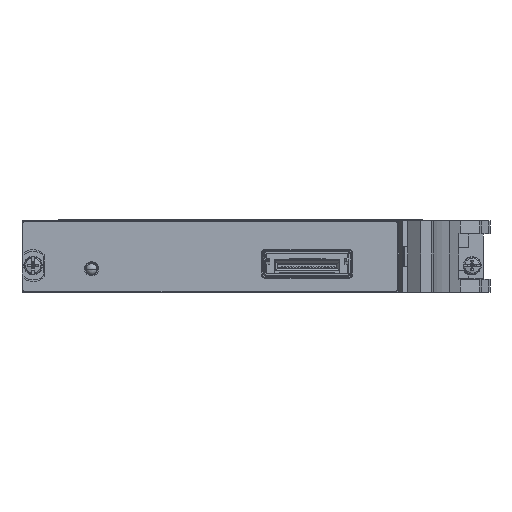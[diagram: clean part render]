
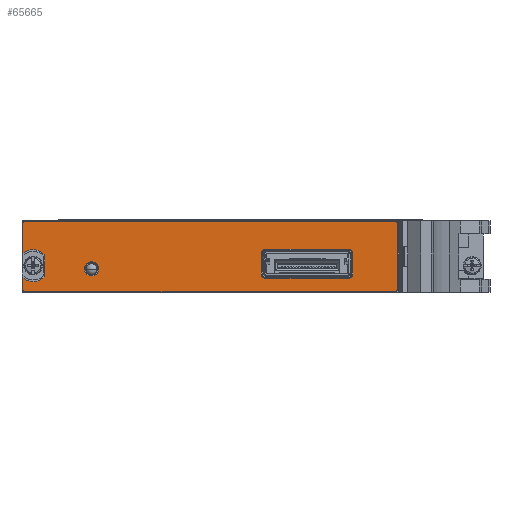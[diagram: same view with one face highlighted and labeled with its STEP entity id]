
A CAD part, left-side view. The second image highlights one B-rep face of the part: STEP entity #65665.
In plain terms, the highlighted planar face has unit normal (-1, 0, 0).
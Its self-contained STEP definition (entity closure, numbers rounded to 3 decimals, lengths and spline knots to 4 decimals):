
#60383=CARTESIAN_POINT('',(-0.215,0.5344,0.6648));
#60384=DIRECTION('',(-1.,0.,0.));
#60385=DIRECTION('',(0.,0.,1.));
#60386=AXIS2_PLACEMENT_3D('',#60383,#60384,#60385);
#60388=DIRECTION('',(0.,1.,0.));
#60389=VECTOR('',#60388,4.07);
#60390=CARTESIAN_POINT('',(-0.215,-3.5356,0.6848));
#60391=LINE('',#60390,#60389);
#60392=CARTESIAN_POINT('',(-0.215,-3.5356,0.6648));
#60393=DIRECTION('',(-1.,0.,0.));
#60394=DIRECTION('',(0.,-1.,0.));
#60395=AXIS2_PLACEMENT_3D('',#60392,#60393,#60394);
#60397=DIRECTION('',(0.,0.,1.));
#60398=VECTOR('',#60397,0.728);
#60399=CARTESIAN_POINT('',(-0.215,-3.5556,-0.0633));
#60400=LINE('',#60399,#60398);
#60401=CARTESIAN_POINT('',(-0.215,-3.5356,-0.0633));
#60402=DIRECTION('',(-1.,0.,0.));
#60403=DIRECTION('',(0.,0.,-1.));
#60404=AXIS2_PLACEMENT_3D('',#60401,#60402,#60403);
#60406=DIRECTION('',(0.,-1.,0.));
#60407=VECTOR('',#60406,4.07);
#60408=CARTESIAN_POINT('',(-0.215,0.5344,-0.0833));
#60409=LINE('',#60408,#60407);
#60410=CARTESIAN_POINT('',(-0.215,0.5344,-0.0633));
#60411=DIRECTION('',(-1.,0.,0.));
#60412=DIRECTION('',(0.,1.,0.));
#60413=AXIS2_PLACEMENT_3D('',#60410,#60411,#60412);
#60415=DIRECTION('',(0.,0.,-1.));
#60416=VECTOR('',#60415,0.1295);
#60417=CARTESIAN_POINT('',(-0.215,0.5544,0.0663));
#60418=LINE('',#60417,#60416);
#60419=CARTESIAN_POINT('',(-0.215,0.4424,0.2008));
#60420=DIRECTION('',(1.,0.,0.));
#60421=DIRECTION('',(0.,-0.737,-0.676));
#60422=AXIS2_PLACEMENT_3D('',#60419,#60420,#60421);
#60424=DIRECTION('',(0.,0.,-1.));
#60425=VECTOR('',#60424,0.2365);
#60426=CARTESIAN_POINT('',(-0.215,0.3134,0.319));
#60427=LINE('',#60426,#60425);
#60428=CARTESIAN_POINT('',(-0.215,0.4424,0.2008));
#60429=DIRECTION('',(1.,0.,0.));
#60430=DIRECTION('',(0.,0.64,0.768));
#60431=AXIS2_PLACEMENT_3D('',#60428,#60429,#60430);
#60433=DIRECTION('',(0.,0.,-1.));
#60434=VECTOR('',#60433,0.3295);
#60435=CARTESIAN_POINT('',(-0.215,0.5544,0.6648));
#60436=LINE('',#60435,#60434);
#60437=CARTESIAN_POINT('',(-0.215,-0.1996,0.1668));
#60438=DIRECTION('',(-1.,0.,0.));
#60439=DIRECTION('',(0.,0.,1.));
#60440=AXIS2_PLACEMENT_3D('',#60437,#60438,#60439);
#60442=CARTESIAN_POINT('',(-0.215,-0.1996,0.1668));
#60443=DIRECTION('',(-1.,0.,0.));
#60444=DIRECTION('',(0.,0.,-1.));
#60445=AXIS2_PLACEMENT_3D('',#60442,#60443,#60444);
#60447=CARTESIAN_POINT('',(-0.215,-2.1126,0.1088));
#60448=DIRECTION('',(-1.,0.,0.));
#60449=DIRECTION('',(0.,1.,0.));
#60450=AXIS2_PLACEMENT_3D('',#60447,#60448,#60449);
#60452=DIRECTION('',(0.,-1.,0.));
#60453=VECTOR('',#60452,0.906);
#60454=CARTESIAN_POINT('',(-0.215,-2.1126,0.0598));
#60455=LINE('',#60454,#60453);
#60456=CARTESIAN_POINT('',(-0.215,-3.0186,0.1088));
#60457=DIRECTION('',(-1.,0.,0.));
#60458=DIRECTION('',(0.,0.,-1.));
#60459=AXIS2_PLACEMENT_3D('',#60456,#60457,#60458);
#60461=DIRECTION('',(0.,0.,1.));
#60462=VECTOR('',#60461,0.225);
#60463=CARTESIAN_POINT('',(-0.215,-3.0676,0.1088));
#60464=LINE('',#60463,#60462);
#60465=CARTESIAN_POINT('',(-0.215,-3.0186,0.3338));
#60466=DIRECTION('',(-1.,0.,0.));
#60467=DIRECTION('',(0.,-1.,0.));
#60468=AXIS2_PLACEMENT_3D('',#60465,#60466,#60467);
#60470=DIRECTION('',(0.,1.,0.));
#60471=VECTOR('',#60470,0.906);
#60472=CARTESIAN_POINT('',(-0.215,-3.0186,0.3828));
#60473=LINE('',#60472,#60471);
#60474=CARTESIAN_POINT('',(-0.215,-2.1126,0.3338));
#60475=DIRECTION('',(-1.,0.,0.));
#60476=DIRECTION('',(0.,0.,1.));
#60477=AXIS2_PLACEMENT_3D('',#60474,#60475,#60476);
#60479=DIRECTION('',(0.,0.,-1.));
#60480=VECTOR('',#60479,0.225);
#60481=CARTESIAN_POINT('',(-0.215,-2.0636,0.3338));
#60482=LINE('',#60481,#60480);
#63573=CARTESIAN_POINT('',(-0.215,0.5344,0.6848));
#63574=CARTESIAN_POINT('',(-0.215,0.5544,0.6648));
#63575=VERTEX_POINT('',#63573);
#63576=VERTEX_POINT('',#63574);
#63577=CARTESIAN_POINT('',(-0.215,0.5544,0.3352));
#63578=VERTEX_POINT('',#63577);
#63579=CARTESIAN_POINT('',(-0.215,0.3134,0.319));
#63580=VERTEX_POINT('',#63579);
#63581=CARTESIAN_POINT('',(-0.215,0.3134,0.0825));
#63582=VERTEX_POINT('',#63581);
#63583=CARTESIAN_POINT('',(-0.215,0.5544,0.0663));
#63584=VERTEX_POINT('',#63583);
#63585=CARTESIAN_POINT('',(-0.215,0.5544,-0.0633));
#63586=VERTEX_POINT('',#63585);
#63587=CARTESIAN_POINT('',(-0.215,0.5344,-0.0833));
#63588=VERTEX_POINT('',#63587);
#63589=CARTESIAN_POINT('',(-0.215,-3.5356,-0.0833));
#63590=VERTEX_POINT('',#63589);
#63591=CARTESIAN_POINT('',(-0.215,-3.5556,-0.0633));
#63592=VERTEX_POINT('',#63591);
#63593=CARTESIAN_POINT('',(-0.215,-3.5556,0.6648));
#63594=VERTEX_POINT('',#63593);
#63595=CARTESIAN_POINT('',(-0.215,-3.5356,0.6848));
#63596=VERTEX_POINT('',#63595);
#63597=CARTESIAN_POINT('',(-0.215,-2.0636,0.1088));
#63598=CARTESIAN_POINT('',(-0.215,-2.1126,0.0598));
#63599=VERTEX_POINT('',#63597);
#63600=VERTEX_POINT('',#63598);
#63601=CARTESIAN_POINT('',(-0.215,-3.0186,0.0598));
#63602=VERTEX_POINT('',#63601);
#63603=CARTESIAN_POINT('',(-0.215,-3.0676,0.1088));
#63604=VERTEX_POINT('',#63603);
#63605=CARTESIAN_POINT('',(-0.215,-3.0676,0.3338));
#63606=VERTEX_POINT('',#63605);
#63607=CARTESIAN_POINT('',(-0.215,-3.0186,0.3828));
#63608=VERTEX_POINT('',#63607);
#63609=CARTESIAN_POINT('',(-0.215,-2.1126,0.3828));
#63610=VERTEX_POINT('',#63609);
#63611=CARTESIAN_POINT('',(-0.215,-2.0636,0.3338));
#63612=VERTEX_POINT('',#63611);
#63613=CARTESIAN_POINT('',(-0.215,-0.1996,0.2453));
#63614=CARTESIAN_POINT('',(-0.215,-0.1996,0.0883));
#63615=VERTEX_POINT('',#63613);
#63616=VERTEX_POINT('',#63614);
#65621=CARTESIAN_POINT('',(-0.215,0.4424,0.2008));
#65622=DIRECTION('',(-1.,0.,0.));
#65623=DIRECTION('',(0.,0.,1.));
#65624=AXIS2_PLACEMENT_3D('',#65621,#65622,#65623);
#65625=PLANE('',#65624);
#65626=ORIENTED_EDGE('',*,*,#64980,.F.);
#65628=ORIENTED_EDGE('',*,*,#65627,.F.);
#65629=ORIENTED_EDGE('',*,*,#65488,.F.);
#65630=ORIENTED_EDGE('',*,*,#65504,.F.);
#65631=ORIENTED_EDGE('',*,*,#65518,.F.);
#65632=ORIENTED_EDGE('',*,*,#65532,.F.);
#65633=ORIENTED_EDGE('',*,*,#65546,.F.);
#65634=ORIENTED_EDGE('',*,*,#65560,.F.);
#65635=ORIENTED_EDGE('',*,*,#65574,.F.);
#65636=ORIENTED_EDGE('',*,*,#65588,.F.);
#65637=ORIENTED_EDGE('',*,*,#65602,.F.);
#65638=ORIENTED_EDGE('',*,*,#65615,.F.);
#65639=EDGE_LOOP('',(#65626,#65628,#65629,#65630,#65631,#65632,#65633,#65634,
#65635,#65636,#65637,#65638));
#65640=FACE_OUTER_BOUND('',#65639,.F.);
#65642=ORIENTED_EDGE('',*,*,#65641,.T.);
#65644=ORIENTED_EDGE('',*,*,#65643,.T.);
#65645=EDGE_LOOP('',(#65642,#65644));
#65646=FACE_BOUND('',#65645,.F.);
#65648=ORIENTED_EDGE('',*,*,#65647,.T.);
#65650=ORIENTED_EDGE('',*,*,#65649,.T.);
#65652=ORIENTED_EDGE('',*,*,#65651,.T.);
#65654=ORIENTED_EDGE('',*,*,#65653,.T.);
#65656=ORIENTED_EDGE('',*,*,#65655,.T.);
#65658=ORIENTED_EDGE('',*,*,#65657,.T.);
#65660=ORIENTED_EDGE('',*,*,#65659,.T.);
#65662=ORIENTED_EDGE('',*,*,#65661,.T.);
#65663=EDGE_LOOP('',(#65648,#65650,#65652,#65654,#65656,#65658,#65660,#65662));
#65664=FACE_BOUND('',#65663,.F.);
#65665=ADVANCED_FACE('',(#65640,#65646,#65664),#65625,.T.);
#60387=CIRCLE('',#60386,0.02);
#60396=CIRCLE('',#60395,0.02);
#60405=CIRCLE('',#60404,0.02);
#60414=CIRCLE('',#60413,0.02);
#60423=CIRCLE('',#60422,0.175);
#60432=CIRCLE('',#60431,0.175);
#60441=CIRCLE('',#60440,0.0785);
#60446=CIRCLE('',#60445,0.0785);
#60451=CIRCLE('',#60450,0.049);
#60460=CIRCLE('',#60459,0.049);
#60469=CIRCLE('',#60468,0.049);
#60478=CIRCLE('',#60477,0.049);
#64980=EDGE_CURVE('',#63575,#63576,#60387,.T.);
#65488=EDGE_CURVE('',#63594,#63596,#60396,.T.);
#65504=EDGE_CURVE('',#63592,#63594,#60400,.T.);
#65518=EDGE_CURVE('',#63590,#63592,#60405,.T.);
#65532=EDGE_CURVE('',#63588,#63590,#60409,.T.);
#65546=EDGE_CURVE('',#63586,#63588,#60414,.T.);
#65560=EDGE_CURVE('',#63584,#63586,#60418,.T.);
#65574=EDGE_CURVE('',#63582,#63584,#60423,.T.);
#65588=EDGE_CURVE('',#63580,#63582,#60427,.T.);
#65602=EDGE_CURVE('',#63578,#63580,#60432,.T.);
#65615=EDGE_CURVE('',#63576,#63578,#60436,.T.);
#65627=EDGE_CURVE('',#63596,#63575,#60391,.T.);
#65641=EDGE_CURVE('',#63615,#63616,#60441,.T.);
#65643=EDGE_CURVE('',#63616,#63615,#60446,.T.);
#65647=EDGE_CURVE('',#63599,#63600,#60451,.T.);
#65649=EDGE_CURVE('',#63600,#63602,#60455,.T.);
#65651=EDGE_CURVE('',#63602,#63604,#60460,.T.);
#65653=EDGE_CURVE('',#63604,#63606,#60464,.T.);
#65655=EDGE_CURVE('',#63606,#63608,#60469,.T.);
#65657=EDGE_CURVE('',#63608,#63610,#60473,.T.);
#65659=EDGE_CURVE('',#63610,#63612,#60478,.T.);
#65661=EDGE_CURVE('',#63612,#63599,#60482,.T.);
